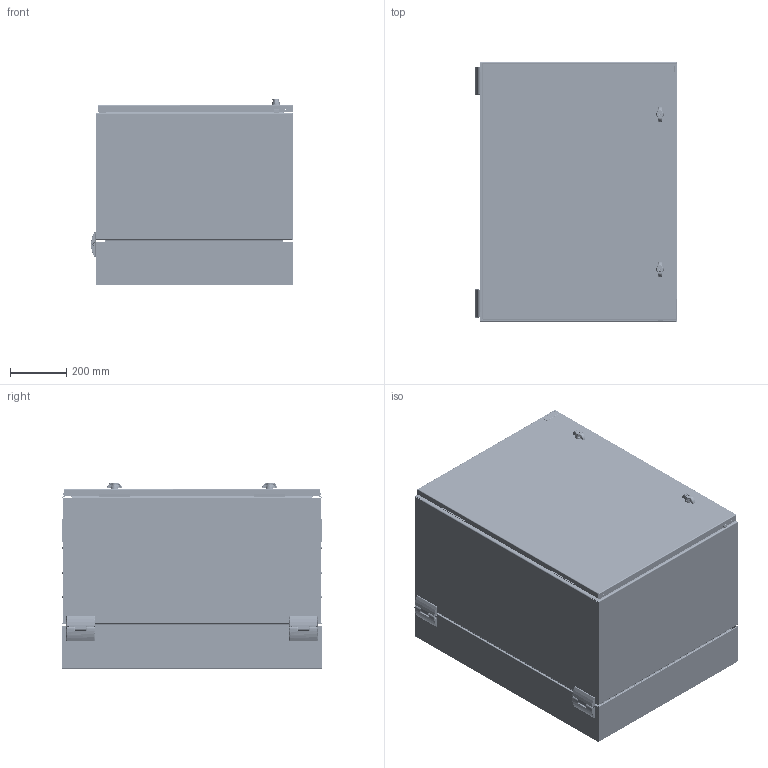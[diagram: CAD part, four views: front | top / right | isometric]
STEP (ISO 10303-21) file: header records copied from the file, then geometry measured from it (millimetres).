
FILE_DESCRIPTION (( 'STEP AP203' ), '1' );
FILE_NAME ('pths362824g4.STEP', '2011-12-02T13:31:20', ( 'Hoffman User' ), ( 'Hoffman Enclosures' ), 'SwSTEP 2.0', 'SolidWorks 2010', '' );
FILE_SCHEMA (( 'CONFIG_CONTROL_DESIGN' ));
Products named in the file (48): pths362824g4; 89080819; 89080818; 89080282; 89060191; 89071699_Installed Config; 89080825; 89078332; 89078331; 89080280; 99401225; 89080822_key taped; 89080821_Compressed wdw gasket; 89080820_89080820; 60127101_60127101; 60100041_60100041; 87931527_87931527; 87931368_SLEEVE; 89080826; 89071927_FOR 16GA; 99407418; 87928600; 64138001; 89066975; 89066980; 89066979_WITH STAKE; 89066976; 89066978; 89066977; 87540581; 87790199; 60127214_601272214; 87790201_87790201; 60127135_Installed postion; 60127199_60127199; 56906712_56906712; 89070550; 89070549; 89056327; 89060213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
Assembly tree (103 placements, depth 5):
  pths362824g4
    89080819
      89080826
      89060191  x2
      89071699_Installed Config  x6
      89080282  x2
      89080818
      60100041_60100041
        87931368_SLEEVE
        87931527_87931527
    89060213  x2
    87927990_87927990
    89072123_87931339  x2
    89066975  x2
    89080825
      89080280  x2
      60100041_60100041  x2
        87931368_SLEEVE
        87931527_87931527
      99401225  x24
      89078332
      89078331
    89066980  x2
      89066976
      87540581
      89066979_WITH STAKE
    89060606_89060606  x2
    89080822_key taped
      64138001  x2
      89071927_FOR 16GA  x2
      87928600
      99407418  x2
      89080821_Compressed wdw gasket
        60127101_60127101  x2
        60100041_60100041
          87931368_SLEEVE
          87931527_87931527
        89080820_89080820
        89080826
    87790199  x2
    89060214  x2
    89060212  x2
    87936109_body cbl mgr horz 4u
    89066978  x2
      87540581
      89066977
    89071543_89071543  x2
    60127214_601272214  x2
      60127135_Installed postion
      56906712_56906712
      87790201_87790201
      60127199_60127199
    87927989_9U
    89070550  x2
      89056327
      89070549
Bounding box: 716 x 922 x 659.17 mm (x, y, z)
Volume: 8492300.5 mm3; surface area: 9127742.7 mm2
Topology: 106 solids, 126 shells, 12874 faces, 32620 edges, 19902 vertices
Faces by surface type: plane 4592, cylinder 3907, bspline 2763, torus 830, cone 543, sphere 239
Entity records: 713382 total; most frequent: CARTESIAN_POINT 502023, ORIENTED_EDGE 47708, DIRECTION 35128, EDGE_CURVE 23854, VERTEX_POINT 14762, AXIS2_PLACEMENT_3D 12533, LINE 10062, VECTOR 10062
